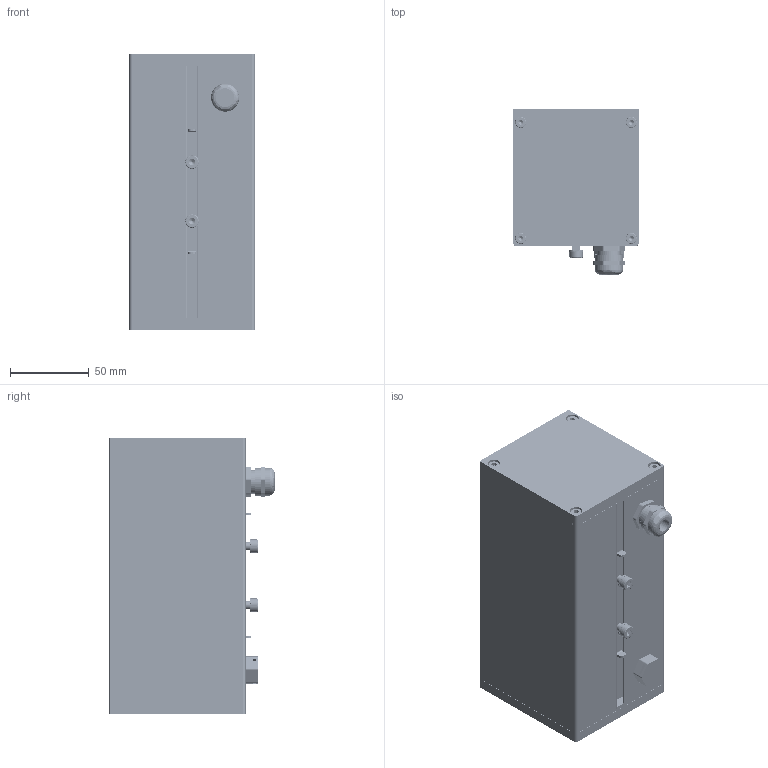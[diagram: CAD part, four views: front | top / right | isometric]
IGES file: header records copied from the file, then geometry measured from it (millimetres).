
Start section: SolidWorks IGES file using analytic representation for surfaces
Global section: file name: C:\Users\User2\Desktop\Lego IGS\Lego 4x2.IGS; native system: SolidWorks 2024; preprocessor: SolidWorks 2024; author: User2; date: 251022.124321; units: millimetre
Bounding box: 80 x 105.15 x 176 mm (x, y, z)
Surface area: 311287.9 mm2 (no closed solid volume)
Topology: 0 solids, 0 shells, 2774 faces, 31866 edges, 31786 vertices
Faces by surface type: bspline 1593, revolution 1181
